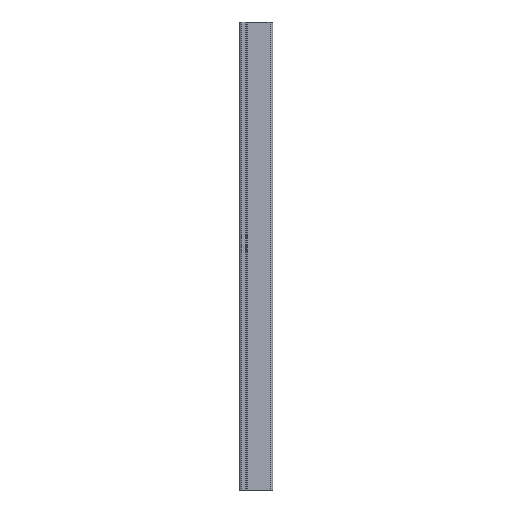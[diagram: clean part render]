
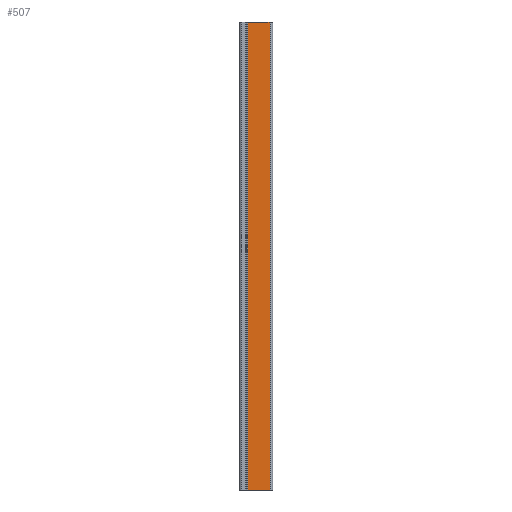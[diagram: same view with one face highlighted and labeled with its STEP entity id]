
A CAD part, left-side view. The second image highlights one B-rep face of the part: STEP entity #507.
In plain terms, the highlighted planar face has unit normal (-1, 0, 0).
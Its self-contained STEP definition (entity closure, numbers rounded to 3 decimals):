
#61 = LINE ( 'NONE', #1197, #404 ) ;
#117 = EDGE_CURVE ( 'NONE', #1023, #824, #421, .T. ) ;
#153 = DIRECTION ( 'NONE',  ( 0., 0., 1. ) ) ;
#285 = CARTESIAN_POINT ( 'NONE',  ( -15., 21., 0. ) ) ;
#300 = EDGE_CURVE ( 'NONE', #1023, #611, #61, .T. ) ;
#307 = CARTESIAN_POINT ( 'NONE',  ( -15., -12., 500. ) ) ;
#369 = LINE ( 'NONE', #285, #1063 ) ;
#404 = VECTOR ( 'NONE', #582, 1000. ) ;
#406 = FACE_OUTER_BOUND ( 'NONE', #422, .T. ) ;
#421 = LINE ( 'NONE', #832, #1109 ) ;
#422 = EDGE_LOOP ( 'NONE', ( #995, #970, #469, #678 ) ) ;
#429 = AXIS2_PLACEMENT_3D ( 'NONE', #604, #1009, #811 ) ;
#469 = ORIENTED_EDGE ( 'NONE', *, *, #117, .F. ) ;
#485 = CARTESIAN_POINT ( 'NONE',  ( -15., -12., 0. ) ) ;
#507 = ADVANCED_FACE ( 'NONE', ( #406 ), #821, .F. ) ;
#510 = DIRECTION ( 'NONE',  ( 0., -1., 0. ) ) ;
#582 = DIRECTION ( 'NONE',  ( 0., 0., -1. ) ) ;
#604 = CARTESIAN_POINT ( 'NONE',  ( -15., 21., 500. ) ) ;
#611 = VERTEX_POINT ( 'NONE', #1056 ) ;
#678 = ORIENTED_EDGE ( 'NONE', *, *, #300, .T. ) ;
#689 = EDGE_CURVE ( 'NONE', #1017, #824, #1194, .T. ) ;
#694 = CARTESIAN_POINT ( 'NONE',  ( -15., 11.992, 500. ) ) ;
#697 = DIRECTION ( 'NONE',  ( 0., -1., 0. ) ) ;
#811 = DIRECTION ( 'NONE',  ( 0., 0., -1. ) ) ;
#821 = PLANE ( 'NONE',  #429 ) ;
#824 = VERTEX_POINT ( 'NONE', #307 ) ;
#832 = CARTESIAN_POINT ( 'NONE',  ( -15., 21., 500. ) ) ;
#866 = CARTESIAN_POINT ( 'NONE',  ( -15., -12., 500. ) ) ;
#970 = ORIENTED_EDGE ( 'NONE', *, *, #689, .T. ) ;
#995 = ORIENTED_EDGE ( 'NONE', *, *, #1261, .T. ) ;
#1009 = DIRECTION ( 'NONE',  ( 1., 0., 0. ) ) ;
#1017 = VERTEX_POINT ( 'NONE', #485 ) ;
#1023 = VERTEX_POINT ( 'NONE', #694 ) ;
#1056 = CARTESIAN_POINT ( 'NONE',  ( -15., 11.992, 0. ) ) ;
#1063 = VECTOR ( 'NONE', #697, 1000. ) ;
#1086 = VECTOR ( 'NONE', #153, 1000. ) ;
#1109 = VECTOR ( 'NONE', #510, 1000. ) ;
#1194 = LINE ( 'NONE', #866, #1086 ) ;
#1197 = CARTESIAN_POINT ( 'NONE',  ( -15., 11.992, 500. ) ) ;
#1261 = EDGE_CURVE ( 'NONE', #611, #1017, #369, .T. ) ;
